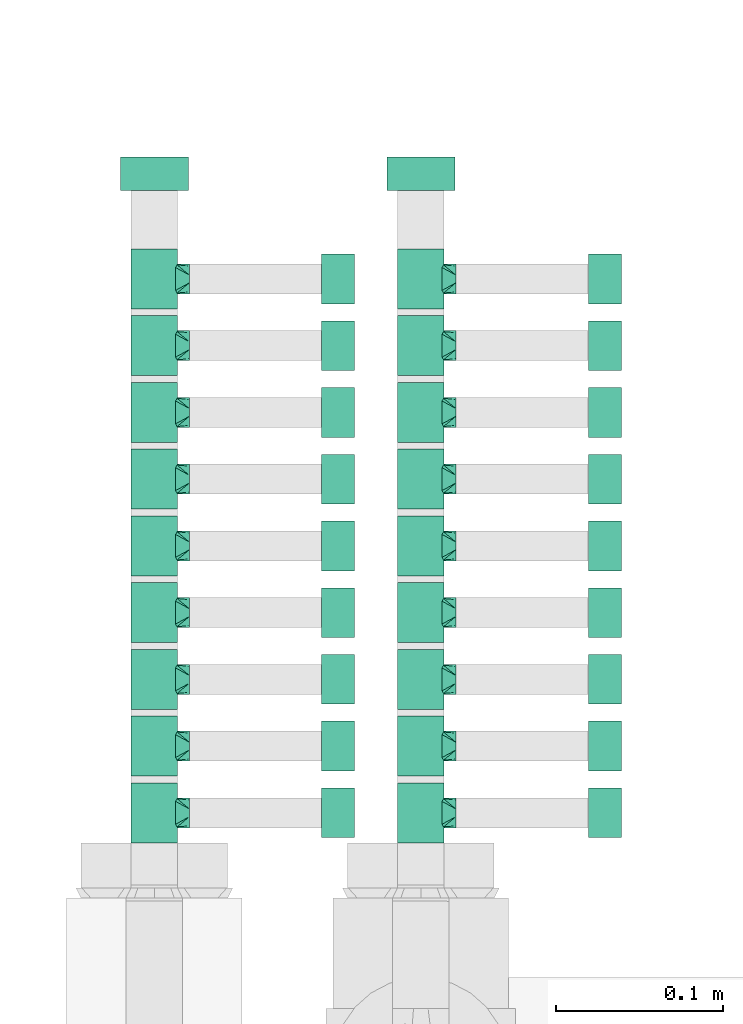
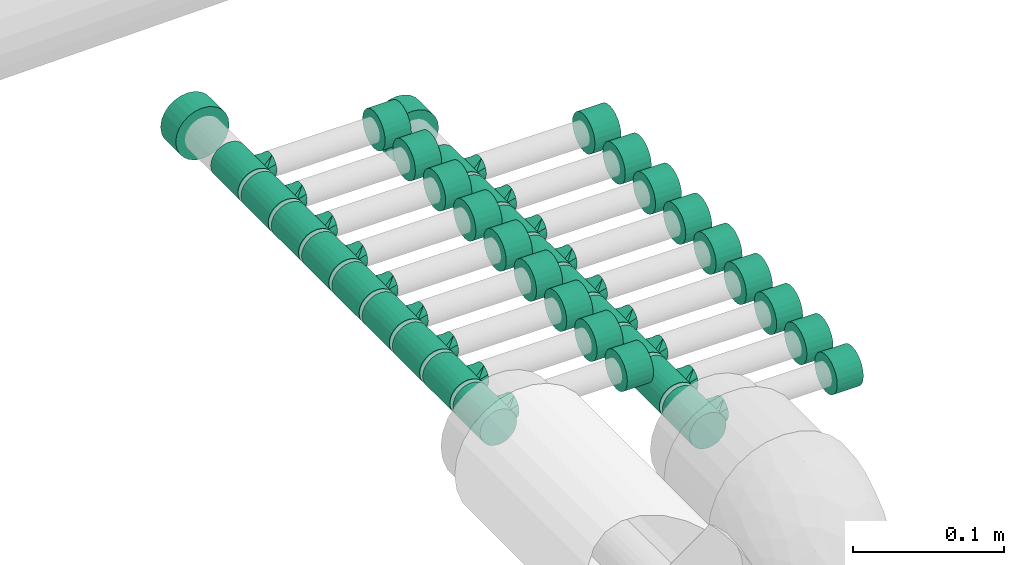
# One storey, part 42 of 83: 38 flow fittings.
"""IFC2X3 building model written with IfcOpenShell, lengths in millimetres."""

import ifcopenshell
import ifcopenshell.guid

model = None  # the IFC model being written
_history = None  # IfcOwnerHistory: only IFC2X3 demands one
_inside = {}  # id of a spatial element -> (the spatial element, [elements in it])
_under = {}  # id of a project, library or spatial element -> (it, [spatial elements below it])
_declared = {}  # id of a project -> (the project, [libraries it declares])
_typed = {}  # id of a type object -> (the type object, [elements of that type])
_made_of = {}  # id of a material, layer set ... -> (it, [elements and type objects made of it])


def new_model(schema):
    """Start an empty IFC model of exactly this schema.

    Asked for "IFC4X3", IfcOpenShell would pick the latest addendum, in which some entities
    have other attributes; the version numbers below select the first issue.
    IFC2X3 requires an IfcOwnerHistory on every rooted entity: one is made here for all.
    """
    global model, _history
    if schema == "IFC4X3":
        model = ifcopenshell.file(schema_version=(4, 3, 0, 0))
    else:
        model = ifcopenshell.file(schema=schema)
    _inside.clear()
    _under.clear()
    _declared.clear()
    _typed.clear()
    _made_of.clear()
    _history = None
    if model.schema == "IFC2X3":
        org = make("IfcOrganization", Name="unknown")
        user = make(
            "IfcPersonAndOrganization",
            ThePerson=make("IfcPerson", FamilyName="unknown"),
            TheOrganization=org,
        )
        app = make(
            "IfcApplication",
            ApplicationDeveloper=org,
            Version="unknown",
            ApplicationFullName="unknown",
            ApplicationIdentifier="unknown",
        )
        _history = make(
            "IfcOwnerHistory",
            OwningUser=user,
            OwningApplication=app,
            ChangeAction="ADDED",
            CreationDate=0,
        )
    return model


def make(cls, **values):
    """One entity of the class cls with the attributes given. An attribute that is None is left unset."""
    return model.create_entity(
        cls, **{name: value for name, value in values.items() if value is not None}
    )


def entity(cls, *values):
    """Any entity or typed value of the class cls, its attributes in the order of the schema. None: left unset."""
    e = model.create_entity(cls)
    for i, value in enumerate(values):
        if value is not None:
            e[i] = value
    return e


def rooted(cls, **values):
    """An entity with a GlobalId (a new one), such as an element, a storey or a relation."""
    return make(cls, GlobalId=ifcopenshell.guid.new(), OwnerHistory=_history, **values)


def si_unit(unit_type, name, prefix=None):
    """IfcSIUnit, for example si_unit("LENGTHUNIT", "METRE", prefix="MILLI")."""
    return make("IfcSIUnit", UnitType=unit_type, Prefix=prefix, Name=name)


def converted_unit(unit_type, name, factor, base, dimensions=None, offset=None):
    """IfcConversionBasedUnit, such as the inch: factor (a typed value) times the base unit."""
    return make(
        "IfcConversionBasedUnit"
        if offset is None
        else "IfcConversionBasedUnitWithOffset",
        ConversionOffset=offset,
        Dimensions=None
        if dimensions is None
        else entity("IfcDimensionalExponents", *dimensions),
        UnitType=unit_type,
        Name=name,
        ConversionFactor=make(
            "IfcMeasureWithUnit", ValueComponent=factor, UnitComponent=base
        ),
    )


def derived_unit(unit_type, elements):
    """IfcDerivedUnit: a product of units, each with its exponent."""
    return make(
        "IfcDerivedUnit",
        Elements=[
            make("IfcDerivedUnitElement", Unit=unit, Exponent=power)
            for unit, power in elements
        ],
        UnitType=unit_type,
    )


def assignment(units):
    """IfcUnitAssignment: the units of a project."""
    return None if units is None else make("IfcUnitAssignment", Units=units)


def point(xyz):
    """IfcCartesianPoint."""
    return None if xyz is None else make("IfcCartesianPoint", Coordinates=xyz)


def direction(xyz):
    """IfcDirection."""
    return None if xyz is None else make("IfcDirection", DirectionRatios=xyz)


def frame(location, z_axis=None, x_axis=None):
    """IfcAxis2Placement3D, a coordinate frame: its origin and axes. An axis left out is left unset."""
    return make(
        "IfcAxis2Placement3D",
        Location=point(location),
        Axis=direction(z_axis),
        RefDirection=direction(x_axis),
    )


def origin_with_axes():
    """The frame at (0, 0, 0) with the z axis (0, 0, 1) and the x axis (1, 0, 0) written out."""
    return frame((0.0, 0.0, 0.0), z_axis=(0.0, 0.0, 1.0), x_axis=(1.0, 0.0, 0.0))


def place(relative_to, where):
    """IfcLocalPlacement: puts the frame where relative to a parent placement (None: the world)."""
    return make(
        "IfcLocalPlacement", PlacementRelTo=relative_to, RelativePlacement=where
    )


def context(
    kind, dimensions, precision=None, world=None, true_north=None, identifier=None
):
    """IfcGeometricRepresentationContext, for example the 3D "Model" context."""
    return make(
        "IfcGeometricRepresentationContext",
        ContextIdentifier=identifier,
        ContextType=kind,
        CoordinateSpaceDimension=dimensions,
        Precision=precision,
        WorldCoordinateSystem=world,
        TrueNorth=true_north,
    )


def subcontext(parent, identifier, kind, view, scale=None):
    """IfcGeometricRepresentationSubContext, for example "Body" below "Model"."""
    return make(
        "IfcGeometricRepresentationSubContext",
        ContextIdentifier=identifier,
        ContextType=kind,
        ParentContext=parent,
        TargetScale=scale,
        TargetView=view,
    )


def project(units=None, contexts=None):
    """IfcProject with its units and contexts."""
    return rooted(
        "IfcProject",
        Name="project",
        RepresentationContexts=contexts,
        UnitsInContext=assignment(units),
    )


def spatial(cls, under=None, at=None, **own):
    """A site, building, storey or space (cls), placed at a placement, below another one or the project."""
    s = rooted(cls, ObjectPlacement=at, **own)
    if under is not None:
        _under.setdefault(under.id(), (under, []))[1].append(s)
    return s


def faces_of(points, faces, orient=None, outer=None):
    """IfcFace entities. A face is a list of loops; a loop is a list of indices into points, from 0.

    orient and outer hold one flag for each loop. By default every Orientation is true, the
    first loop of a face is its IfcFaceOuterBound and the others are IfcFaceBound.
    """
    made = []
    for i, loops in enumerate(faces):
        bounds = []
        for j, loop in enumerate(loops):
            is_outer = j == 0 if outer is None else outer[i][j]
            bounds.append(
                make(
                    "IfcFaceOuterBound" if is_outer else "IfcFaceBound",
                    Bound=make("IfcPolyLoop", Polygon=[points[k] for k in loop]),
                    Orientation=True if orient is None else orient[i][j],
                )
            )
        made.append(make("IfcFace", Bounds=bounds))
    return made


def open_shell(faces, orient=None, outer=None):
    """The faces of one IfcOpenShell. surface_model builds it on its shared points."""
    return ("IfcOpenShell", faces, orient, outer)


def surface_model(cls, points, shells):
    """IfcFaceBasedSurfaceModel or IfcShellBasedSurfaceModel (cls): surfaces that need not close."""
    shared = [point(p) for p in points]
    made = [make(c, CfsFaces=faces_of(shared, fs, o, b)) for c, fs, o, b in shells]
    if cls == "IfcFaceBasedSurfaceModel":
        return make(cls, FbsmFaces=made)
    return make(cls, SbsmBoundary=made)


def shape(context_of_items, identifier, shape_type, items):
    """IfcShapeRepresentation: the items that make up one representation, for example the "Body"."""
    return make(
        "IfcShapeRepresentation",
        ContextOfItems=context_of_items,
        RepresentationIdentifier=identifier,
        RepresentationType=shape_type,
        Items=items,
    )


def source(mapping_origin, context_of_items, identifier, shape_type, items):
    """IfcRepresentationMap: a shape defined once, which mapped items show again and again."""
    return make(
        "IfcRepresentationMap",
        MappingOrigin=mapping_origin,
        MappedRepresentation=shape(context_of_items, identifier, shape_type, items),
    )


def transform(
    local_origin,
    x_axis=None,
    y_axis=None,
    z_axis=None,
    scale=None,
    scale2=None,
    scale3=None,
    uniform=True,
):
    """IfcCartesianTransformationOperator3D, or its non-uniform kind. x_axis, y_axis, z_axis: its Axis1, 2, 3."""
    if uniform:
        return make(
            "IfcCartesianTransformationOperator3D",
            Axis1=direction(x_axis),
            Axis2=direction(y_axis),
            LocalOrigin=point(local_origin),
            Scale=scale,
            Axis3=direction(z_axis),
        )
    return make(
        "IfcCartesianTransformationOperator3DnonUniform",
        Axis1=direction(x_axis),
        Axis2=direction(y_axis),
        LocalOrigin=point(local_origin),
        Scale=scale,
        Axis3=direction(z_axis),
        Scale2=scale2,
        Scale3=scale3,
    )


def mapped(mapping_source, mapping_target):
    """IfcMappedItem: shows the shape of a source again, moved by a transform."""
    return make(
        "IfcMappedItem", MappingSource=mapping_source, MappingTarget=mapping_target
    )


def made_of(thing, what):
    """Note that an element or type object is made of a material, layer set ...; save() writes the relation."""
    if what is not None:
        _made_of.setdefault(what.id(), (what, []))[1].append(thing)
    return thing


def type_object(cls, material=None, **own):
    """A type object (cls), such as IfcWallType, which elements share."""
    return made_of(rooted(cls, **own), material)


def element(
    cls,
    number,
    at=None,
    inside=None,
    cuts=None,
    type_object=None,
    material=None,
    context=None,
    identifier="Body",
    shape_type=None,
    held_by="IfcProductDefinitionShape",
    body=None,
    shapes=None,
    **own,
):
    """One element of the class cls, such as IfcWall. Its Tag is "e" and its number.

    at: its placement. inside: the storey or other place that contains it. cuts: it is an
    opening in that element (IfcRelVoidsElement). A single representation is given by context,
    identifier, shape_type and body (its items); several are given by shapes. held_by: the class
    of the entity that holds the representations. save() writes the other relations.
    """
    e = rooted(cls, Tag="e%d" % number, ObjectPlacement=at, **own)
    if body is not None:
        shapes = [shape(context, identifier, shape_type, body)]
    if shapes is not None:
        e.Representation = make(held_by, Representations=shapes)
    if inside is not None:
        _inside.setdefault(inside.id(), (inside, []))[1].append(e)
    if cuts is not None:
        rooted(
            "IfcRelVoidsElement", RelatingBuildingElement=cuts, RelatedOpeningElement=e
        )
    if type_object is not None:
        _typed.setdefault(type_object.id(), (type_object, []))[1].append(e)
    return made_of(e, material)


def aggregate(whole, parts):
    """IfcRelAggregates: a whole, such as a stair, and the parts it consists of."""
    return rooted("IfcRelAggregates", RelatingObject=whole, RelatedObjects=parts)


def save(model, path):
    """Write the relations noted so far, then the file.

    IfcRelAggregates (storeys below a building ...), IfcRelContainedInSpatialStructure (elements
    in a storey), IfcRelDefinesByType, IfcRelAssociatesMaterial and IfcRelDeclares: one each for
    every whole, place, type object, material and project.
    """
    for whole, parts in _under.values():
        aggregate(whole, parts)
    for where, things in _inside.values():
        rooted(
            "IfcRelContainedInSpatialStructure",
            RelatedElements=things,
            RelatingStructure=where,
        )
    for kind, things in _typed.values():
        rooted("IfcRelDefinesByType", RelatedObjects=things, RelatingType=kind)
    for what, things in _made_of.values():
        rooted("IfcRelAssociatesMaterial", RelatedObjects=things, RelatingMaterial=what)
    for by, libraries in _declared.values():
        rooted("IfcRelDeclares", RelatingContext=by, RelatedDefinitions=libraries)
    model.write(path)


model = new_model("IFC2X3")

# Units and contexts
model_context = context("Model", 3, precision=0.01, world=frame((0.0, 4.29681676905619e-09, 0.0)), true_north=direction((4.01073788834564e-13, 1.0)))
plan_context = context("Plan", 3, precision=0.01, world=frame((0.0, 4.29681676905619e-09, 0.0)), true_north=direction((4.01073788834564e-13, 1.0)))
body_context = subcontext(model_context, "Body", "Model", "MODEL_VIEW")
ifc_project = project(units=[converted_unit("PLANEANGLEUNIT", "DEGREE", entity("IfcPositiveLengthMeasure", 0.0174532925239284), si_unit("PLANEANGLEUNIT", "RADIAN"), dimensions=[0, 0, 0, 0, 0, 0, 0]), si_unit("AREAUNIT", "SQUARE_METRE"), si_unit("LENGTHUNIT", "METRE", prefix="MILLI"), si_unit("MASSUNIT", "GRAM", prefix="KILO"), si_unit("POWERUNIT", "WATT"), si_unit("PRESSUREUNIT", "PASCAL"), si_unit("FORCEUNIT", "NEWTON", prefix="KILO"), si_unit("ELECTRICVOLTAGEUNIT", "VOLT"), si_unit("ELECTRICCURRENTUNIT", "AMPERE"), si_unit("THERMODYNAMICTEMPERATUREUNIT", "DEGREE_CELSIUS"), si_unit("TIMEUNIT", "SECOND"), si_unit("VOLUMEUNIT", "CUBIC_METRE"), derived_unit("LINEARVELOCITYUNIT", [(si_unit("LENGTHUNIT", "METRE"), 1), (si_unit("TIMEUNIT", "SECOND"), -1)]), derived_unit("VOLUMETRICFLOWRATEUNIT", [(si_unit("VOLUMEUNIT", "CUBIC_METRE"), 1), (si_unit("TIMEUNIT", "SECOND"), -1)]), derived_unit("THERMALTRANSMITTANCEUNIT", [(si_unit("POWERUNIT", "WATT"), 1), (si_unit("THERMODYNAMICTEMPERATUREUNIT", "KELVIN"), -1), (si_unit("AREAUNIT", "SQUARE_METRE"), -1)]), derived_unit("SOUNDPRESSUREUNIT", [(si_unit("PRESSUREUNIT", "PASCAL"), 1)])], contexts=[model_context, plan_context])

# Site, building, storey
site_placement = place(None, frame((0.0, -4.29681676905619e-09, 0.0), z_axis=(0.0, 0.0, 1.0), x_axis=(1.0, 0.0, 0.0)))
site = spatial("IfcSite", under=ifc_project, at=site_placement, Name="ENGM", CompositionType="ELEMENT")
building_placement = place(site_placement, frame((0.0, 4.29681676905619e-09, 0.0), z_axis=(0.0, 0.0, 1.0), x_axis=(1.0, 0.0, 0.0)))
building = spatial("IfcBuilding", under=site, at=building_placement, Name="TI", CompositionType="ELEMENT")
storey_placement = place(building_placement, frame((0.0, 0.0, 204000.0), z_axis=(0.0, 0.0, 1.0), x_axis=(1.0, 0.0, 0.0)))
storey = spatial("IfcBuildingStorey", under=building, at=storey_placement, Name="Nivå D", CompositionType="ELEMENT", Elevation=204000.0)

# Flow fittings
pipe_fitting_type_1 = type_object("IfcPipeFittingType", Name="magi_pipe_pex_tee_centric_90_001", PredefinedType="JUNCTION")
shared_shape_1 = source(origin_with_axes(), body_context, "Body", "SurfaceModel", [
    surface_model("IfcShellBasedSurfaceModel", [(-18.0, -9.89949, -9.89949), (-18.0, 0.0, -14.0), (-18.0, -3.62347, -13.52296), (-18.0, -7.0, -12.12436), (-18.0, -12.12436, -7.0), (-18.0, -13.52296, -3.62347), (-18.0, 12.12436, -7.0), (-18.0, 3.62347, -13.52296), (-18.0, 9.89949, -9.89949), (-18.0, 7.0, -12.12436), (-18.0, 14.0, 0.0), (-18.0, 13.52296, -3.62347), (-18.0, -7.0, 12.12436), (-18.0, -14.0, 0.0), (-18.0, -13.52296, 3.62347), (-18.0, -12.12436, 7.0), (-18.0, -3.62347, 13.52296), (-18.0, -9.89949, 9.89949), (-18.0, 0.0, 14.0), (-18.0, 12.12436, 7.0), (-18.0, 13.52296, 3.62347), (-18.0, 9.89949, 9.89949), (-18.0, 3.62347, 13.52296), (-18.0, 7.0, 12.12436), (18.0, -3.62347, -13.52296), (18.0, 0.0, -14.0), (18.0, -9.89949, -9.89949), (18.0, -7.0, -12.12436), (18.0, -13.52296, -3.62347), (18.0, -12.12436, -7.0), (18.0, 12.12436, -7.0), (18.0, 7.0, -12.12436), (18.0, 9.89949, -9.89949), (18.0, 3.62347, -13.52296), (18.0, 13.52296, -3.62347), (18.0, 14.0, 0.0), (18.0, -14.0, 0.0), (18.0, -12.12436, 7.0), (18.0, -13.52296, 3.62347), (18.0, -7.0, 12.12436), (18.0, -3.62347, 13.52296), (18.0, -9.89949, 9.89949), (18.0, 0.0, 14.0), (18.0, 13.52296, 3.62347), (18.0, 12.12436, 7.0), (18.0, 9.89949, 9.89949), (18.0, 7.0, 12.12436), (18.0, 3.62347, 13.52296), (8.43076, 13.64103, 3.14996), (9.0, 14.0, 0.0), (18.0, 12.82366, 5.31173), (4.53823, 11.64455, 7.77203), (6.86452, 12.7327, 5.82051), (1.60606, 10.84341, 8.85554), (-8.43107, 13.64122, 3.14913), (-9.0, 14.0, 0.0), (-18.0, 12.82366, 5.31173), (-6.86651, 12.73377, 5.81816), (-1.60877, 10.84381, 8.85505), (-4.53904, 11.64487, 7.77156), (-6.86651, 12.73377, -5.81816), (-18.0, 12.82366, -5.31173), (-8.43107, 13.64122, -3.14913), (18.0, 12.82366, -5.31173), (6.86452, 12.7327, -5.82051), (4.53823, 11.64455, -7.77203), (1.60606, 10.84341, -8.85554), (8.43076, 13.64103, -3.14996), (-4.53904, 11.64487, -7.77156), (-1.60877, 10.84381, -8.85505), (4.5, 21.0, -7.79423), (2.32937, 21.0, -8.69333), (0.0, 21.0, -9.0), (8.69333, 21.0, -2.32937), (7.79423, 21.0, -4.5), (6.36396, 21.0, -6.36396), (-9.0, 21.0, 0.0), (-4.5, 21.0, -7.79423), (-6.36396, 21.0, -6.36396), (-2.32937, 21.0, -8.69333), (-8.69333, 21.0, -2.32937), (-7.79423, 21.0, -4.5), (9.0, 21.0, 0.0), (-4.5, 21.0, 7.79423), (8.69333, 21.0, 2.32937), (0.0, 21.0, 9.0), (7.79423, 21.0, 4.5), (2.32937, 21.0, 8.69333), (4.5, 21.0, 7.79423), (6.36396, 21.0, 6.36396), (-7.79423, 21.0, 4.5), (-6.36396, 21.0, 6.36396), (-8.69333, 21.0, 2.32937), (-2.32937, 21.0, 8.69333)], [open_shell([[[0, 1, 2]], [[0, 2, 3]], [[4, 5, 1]], [[4, 1, 0]], [[1, 5, 6]], [[7, 8, 9]], [[8, 7, 6]], [[6, 10, 11]], [[6, 7, 1]], [[6, 12, 10]], [[6, 5, 13]], [[13, 14, 15]], [[15, 12, 6]], [[16, 10, 12]], [[12, 15, 17]], [[10, 16, 18]], [[10, 19, 20]], [[10, 21, 19]], [[21, 22, 23]], [[22, 21, 18]], [[18, 21, 10]], [[15, 6, 13]], [[24, 25, 26]], [[27, 24, 26]], [[25, 28, 29]], [[26, 25, 29]], [[30, 28, 25]], [[31, 32, 33]], [[30, 33, 32]], [[34, 35, 30]], [[25, 33, 30]], [[30, 35, 28]], [[35, 36, 28]], [[37, 38, 36]], [[39, 37, 36]], [[39, 35, 40]], [[41, 37, 39]], [[35, 42, 40]], [[43, 44, 35]], [[44, 45, 35]], [[46, 47, 45]], [[42, 45, 47]], [[35, 45, 42]], [[35, 39, 36]], [[48, 43, 35]], [[35, 49, 48]], [[43, 48, 50]], [[51, 45, 44]], [[44, 52, 51]], [[45, 51, 53]], [[53, 21, 45]], [[50, 52, 44]], [[52, 50, 48]], [[10, 54, 55]], [[54, 10, 20]], [[54, 56, 57]], [[21, 58, 59]], [[57, 19, 59]], [[21, 59, 19]], [[54, 20, 56]], [[21, 53, 58]], [[56, 19, 57]], [[21, 23, 45]], [[42, 47, 18]], [[47, 46, 22]], [[40, 42, 16]], [[14, 38, 37]], [[41, 39, 17]], [[37, 41, 15]], [[12, 39, 40]], [[36, 38, 13]], [[22, 46, 23]], [[18, 47, 22]], [[42, 18, 16]], [[16, 12, 40]], [[17, 39, 12]], [[41, 17, 15]], [[37, 15, 14]], [[14, 13, 38]], [[45, 23, 46]], [[28, 36, 13]], [[5, 29, 28]], [[29, 4, 26]], [[25, 7, 33]], [[25, 24, 1]], [[60, 61, 62]], [[2, 24, 27]], [[9, 31, 33]], [[3, 27, 26]], [[26, 4, 0]], [[29, 5, 4]], [[28, 13, 5]], [[63, 30, 64]], [[2, 27, 3]], [[24, 2, 1]], [[1, 7, 25]], [[7, 9, 33]], [[3, 26, 0]], [[9, 8, 31]], [[65, 30, 32]], [[32, 66, 65]], [[65, 64, 30]], [[8, 66, 32]], [[67, 35, 34]], [[67, 63, 64]], [[35, 67, 49]], [[34, 63, 67]], [[8, 68, 69]], [[68, 8, 6]], [[6, 60, 68]], [[66, 8, 69]], [[61, 11, 62]], [[11, 10, 62]], [[55, 62, 10]], [[6, 61, 60]], [[31, 8, 32]], [[70, 71, 72]], [[73, 70, 72]], [[73, 74, 75]], [[70, 73, 75]], [[76, 73, 72]], [[77, 78, 79]], [[78, 72, 79]], [[80, 76, 81]], [[78, 81, 76]], [[78, 76, 72]], [[76, 82, 73]], [[82, 83, 84]], [[84, 85, 86]], [[86, 87, 88]], [[89, 86, 88]], [[86, 85, 87]], [[90, 91, 92]], [[83, 92, 91]], [[93, 85, 83]], [[83, 76, 92]], [[83, 85, 84]], [[82, 76, 83]], [[92, 76, 55]], [[91, 90, 54]], [[55, 90, 92]], [[54, 83, 91]], [[54, 90, 55]], [[93, 54, 57]], [[51, 59, 58]], [[59, 52, 57]], [[57, 85, 93]], [[54, 93, 83]], [[85, 52, 87]], [[87, 48, 88]], [[86, 89, 48]], [[48, 89, 88]], [[84, 86, 49]], [[58, 53, 51]], [[59, 51, 52]], [[48, 49, 86]], [[87, 52, 48]], [[82, 84, 49]], [[52, 85, 57]], [[73, 82, 49]], [[75, 74, 67]], [[49, 74, 73]], [[67, 70, 75]], [[67, 74, 49]], [[71, 67, 64]], [[69, 65, 66]], [[65, 68, 64]], [[64, 72, 71]], [[67, 71, 70]], [[79, 72, 60]], [[79, 62, 77]], [[81, 78, 62]], [[62, 78, 77]], [[80, 81, 55]], [[65, 69, 68]], [[64, 68, 60]], [[62, 55, 81]], [[79, 60, 62]], [[76, 80, 55]], [[60, 72, 64]]])]),
])
for number, where, z_axis, x_axis, name in (
    (1, (603050.14337, 693512.44874, 6342.22842999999), (0.0, 0.0, 1.0), (0.0, -1.0, 0.0), "magi_pipe_pex_tee_centric_90_001"),
    (2, (603050.14337, 693552.44874, 6342.22842999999), (0.0, 0.0, 1.0), (0.0, -1.0, 0.0), "magi_pipe_pex_tee_centric_90_001"),
    (3, (603050.14337, 693592.44874, 6342.22842999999), (0.0, 0.0, 1.0), (0.0, -1.0, 0.0), "magi_pipe_pex_tee_centric_90_001"),
    (4, (603050.14337, 693632.44874, 6342.22842999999), (0.0, 0.0, 1.0), (0.0, -1.0, 0.0), "magi_pipe_pex_tee_centric_90_001"),
    (5, (603050.14337, 693672.44874, 6342.22842999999), (0.0, 0.0, 1.0), (0.0, -1.0, 0.0), "magi_pipe_pex_tee_centric_90_001"),
    (6, (603050.14337, 693712.44874, 6342.22842999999), (0.0, 0.0, 1.0), (0.0, -1.0, 0.0), "magi_pipe_pex_tee_centric_90_001"),
    (7, (603050.14337, 693752.44874, 6342.22842999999), (0.0, 0.0, 1.0), (0.0, -1.0, 0.0), "magi_pipe_pex_tee_centric_90_001"),
    (8, (603050.14337, 693792.44874, 6342.22842999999), (0.0, 0.0, 1.0), (0.0, -1.0, 0.0), "magi_pipe_pex_tee_centric_90_001"),
    (9, (603050.14337, 693832.44874, 6342.22842999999), (0.0, 0.0, 1.0), (0.0, -1.0, 0.0), "magi_pipe_pex_tee_centric_90_001"),
    (10, (603209.87398, 693512.44819, 6283.60000000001), (0.0, 0.0, 1.0), (0.0, -1.0, 0.0), "magi_pipe_pex_tee_centric_90_001"),
    (11, (603209.87398, 693552.44819, 6283.60000000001), (0.0, 0.0, 1.0), (0.0, -1.0, 0.0), "magi_pipe_pex_tee_centric_90_001"),
    (12, (603209.87398, 693592.44819, 6283.60000000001), (0.0, 0.0, 1.0), (0.0, -1.0, 0.0), "magi_pipe_pex_tee_centric_90_001"),
    (13, (603209.87398, 693632.44819, 6283.60000000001), (0.0, 0.0, 1.0), (0.0, -1.0, 0.0), "magi_pipe_pex_tee_centric_90_001"),
    (14, (603209.87398, 693672.44819, 6283.60000000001), (0.0, 0.0, 1.0), (0.0, -1.0, 0.0), "magi_pipe_pex_tee_centric_90_001"),
    (15, (603209.87398, 693712.44819, 6283.60000000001), (0.0, 0.0, 1.0), (0.0, -1.0, 0.0), "magi_pipe_pex_tee_centric_90_001"),
    (16, (603209.87398, 693752.44819, 6283.60000000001), (0.0, 0.0, 1.0), (0.0, -1.0, 0.0), "magi_pipe_pex_tee_centric_90_001"),
    (17, (603209.87398, 693792.44819, 6283.60000000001), (0.0, 0.0, 1.0), (0.0, -1.0, 0.0), "magi_pipe_pex_tee_centric_90_001"),
    (18, (603209.87398, 693832.44819, 6283.60000000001), (0.0, 0.0, 1.0), (0.0, -1.0, 0.0), "magi_pipe_pex_tee_centric_90_001"),
):
    element("IfcFlowFitting", number, at=place(storey_placement, frame(where, z_axis=z_axis, x_axis=x_axis)), inside=storey, type_object=pipe_fitting_type_1, Name=name, context=body_context, shape_type="MappedRepresentation", body=[
        mapped(shared_shape_1, transform((0.0, 0.0, 0.0), scale=1.0)),
    ])
pipe_fitting_type_2 = type_object("IfcPipeFittingType", Name="magi_sewer_endcap_001", PredefinedType="OBSTRUCTION")
shared_shape_2 = source(origin_with_axes(), body_context, "Body", "SurfaceModel", [
    surface_model("IfcShellBasedSurfaceModel", [(20.0, 14.39229, 3.8564), (20.0, 14.39229, -3.8564), (20.0, 14.9, 0.0), (0.0, -14.39229, 3.8564), (0.0, -14.39229, -3.8564), (0.0, -14.9, 0.0), (20.0, -14.39229, -3.8564), (20.0, -14.9, 0.0), (0.0, 14.9, 0.0), (0.0, 14.39229, 3.8564), (20.0, 12.90378, 7.45), (20.0, 10.53589, 10.53589), (0.0, 12.90378, 7.45), (0.0, -12.90378, 7.45), (20.0, -12.90378, 7.45), (20.0, -10.53589, 10.53589), (20.0, -14.39229, 3.8564), (20.0, -7.45, -12.90378), (20.0, -3.8564, -14.39229), (20.0, 0.0, -14.9), (20.0, 7.45, -12.90378), (20.0, -10.53589, -10.53589), (20.0, -12.90378, -7.45), (20.0, 3.8564, -14.39229), (20.0, 12.90378, -7.45), (20.0, 10.53589, -10.53589), (20.0, -7.45, 12.90378), (20.0, 0.0, 14.9), (20.0, -3.8564, 14.39229), (20.0, 3.8564, 14.39229), (20.0, 7.45, 12.90378), (0.0, -7.45, 12.90378), (0.0, -3.8564, 14.39229), (0.0, 0.0, 14.9), (0.0, -10.53589, 10.53589), (0.0, 3.8564, 14.39229), (0.0, 7.45, 12.90378), (0.0, 10.53589, 10.53589), (0.0, 14.39229, -3.8564), (0.0, -7.45, -12.90378), (0.0, -10.53589, -10.53589), (0.0, -12.90378, -7.45), (0.0, -3.8564, -14.39229), (0.0, 7.45, -12.90378), (0.0, 12.90378, -7.45), (0.0, 10.53589, -10.53589), (0.0, 3.8564, -14.39229), (0.0, 0.0, -14.9)], [open_shell([[[0, 1, 2]], [[3, 4, 5]], [[6, 7, 5]], [[8, 2, 1]], [[9, 10, 0]], [[0, 2, 8]], [[11, 10, 12]], [[13, 14, 15]], [[16, 14, 3]], [[5, 7, 16]], [[17, 18, 19]], [[17, 20, 21]], [[0, 6, 21]], [[22, 21, 6]], [[21, 20, 0]], [[23, 20, 19]], [[20, 17, 19]], [[24, 1, 25]], [[20, 25, 1]], [[1, 0, 20]], [[6, 10, 7]], [[15, 14, 16]], [[26, 15, 16]], [[27, 28, 26]], [[16, 27, 26]], [[29, 27, 16]], [[6, 0, 10]], [[30, 29, 11]], [[10, 11, 29]], [[16, 10, 29]], [[10, 16, 7]], [[31, 32, 33]], [[34, 31, 33]], [[3, 13, 34]], [[33, 3, 34]], [[35, 3, 33]], [[36, 37, 35]], [[12, 35, 37]], [[12, 9, 35]], [[9, 3, 35]], [[8, 38, 9]], [[39, 3, 9]], [[3, 40, 4]], [[41, 4, 40]], [[9, 42, 39]], [[39, 40, 3]], [[9, 43, 42]], [[44, 45, 38]], [[43, 38, 45]], [[46, 47, 43]], [[43, 9, 38]], [[43, 47, 42]], [[8, 1, 38]], [[38, 24, 44]], [[43, 45, 20]], [[25, 45, 44]], [[46, 43, 23]], [[1, 24, 38]], [[43, 20, 23]], [[20, 45, 25]], [[44, 24, 25]], [[46, 23, 19]], [[19, 47, 46]], [[42, 47, 18]], [[39, 42, 17]], [[4, 41, 22]], [[5, 4, 6]], [[17, 21, 39]], [[42, 18, 17]], [[21, 22, 40]], [[22, 41, 40]], [[6, 4, 22]], [[39, 21, 40]], [[19, 18, 47]], [[5, 16, 3]], [[3, 14, 13]], [[31, 34, 26]], [[15, 34, 13]], [[32, 31, 28]], [[31, 26, 28]], [[26, 34, 15]], [[32, 28, 27]], [[27, 33, 32]], [[37, 36, 30]], [[9, 12, 10]], [[11, 12, 37]], [[8, 9, 0]], [[30, 35, 29]], [[35, 27, 29]], [[30, 36, 35]], [[30, 11, 37]], [[33, 27, 35]]])]),
])
for number, where, z_axis, x_axis, name in (
    (19, (603150.2536, 693512.44877, 6342.22808999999), (0.0, 0.0, -1.0), (1.0, 0.0, 0.0), "magi_sewer_endcap_001"),
    (20, (603150.2536, 693552.44877, 6342.22808999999), (0.0, 0.0, -1.0), (1.0, 0.0, 0.0), "magi_sewer_endcap_001"),
    (21, (603150.2536, 693592.44877, 6342.22808999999), (0.0, 0.0, -1.0), (1.0, 0.0, 0.0), "magi_sewer_endcap_001"),
    (22, (603150.2536, 693632.44877, 6342.22808999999), (0.0, 0.0, -1.0), (1.0, 0.0, 0.0), "magi_sewer_endcap_001"),
    (23, (603150.2536, 693672.44877, 6342.22808999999), (0.0, 0.0, -1.0), (1.0, 0.0, 0.0), "magi_sewer_endcap_001"),
    (24, (603150.2536, 693712.44877, 6342.22808999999), (0.0, 0.0, -1.0), (1.0, 0.0, 0.0), "magi_sewer_endcap_001"),
    (25, (603150.2536, 693752.44877, 6342.22808999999), (0.0, 0.0, -1.0), (1.0, 0.0, 0.0), "magi_sewer_endcap_001"),
    (26, (603150.2536, 693792.44877, 6342.22808999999), (0.0, 0.0, -1.0), (1.0, 0.0, 0.0), "magi_sewer_endcap_001"),
    (27, (603150.2536, 693832.44877, 6342.22808999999), (0.0, 0.0, -1.0), (1.0, 0.0, 0.0), "magi_sewer_endcap_001"),
    (28, (603310.30343, 693512.44819, 6283.60000000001), (0.0, 0.0, -1.0), (1.0, 0.0, 0.0), "magi_sewer_endcap_001"),
    (29, (603310.30343, 693552.44819, 6283.60000000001), (0.0, 0.0, -1.0), (1.0, 0.0, 0.0), "magi_sewer_endcap_001"),
    (30, (603310.30343, 693592.44819, 6283.60000000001), (0.0, 0.0, -1.0), (1.0, 0.0, 0.0), "magi_sewer_endcap_001"),
    (31, (603310.30343, 693632.44819, 6283.60000000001), (0.0, 0.0, -1.0), (1.0, 0.0, 0.0), "magi_sewer_endcap_001"),
    (32, (603310.30343, 693672.44819, 6283.60000000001), (0.0, 0.0, -1.0), (1.0, 0.0, 0.0), "magi_sewer_endcap_001"),
    (33, (603310.30343, 693712.44819, 6283.60000000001), (0.0, 0.0, -1.0), (1.0, 0.0, 0.0), "magi_sewer_endcap_001"),
    (34, (603310.30343, 693752.44819, 6283.60000000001), (0.0, 0.0, -1.0), (1.0, 0.0, 0.0), "magi_sewer_endcap_001"),
    (35, (603310.30343, 693792.44819, 6283.60000000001), (0.0, 0.0, -1.0), (1.0, 0.0, 0.0), "magi_sewer_endcap_001"),
    (36, (603310.30343, 693832.44819, 6283.60000000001), (0.0, 0.0, -1.0), (1.0, 0.0, 0.0), "magi_sewer_endcap_001"),
):
    element("IfcFlowFitting", number, at=place(storey_placement, frame(where, z_axis=z_axis, x_axis=x_axis)), inside=storey, type_object=pipe_fitting_type_2, Name=name, context=body_context, shape_type="MappedRepresentation", body=[
        mapped(shared_shape_2, transform((0.0, 0.0, 0.0), scale=1.0)),
    ])
shared_shape_3 = source(origin_with_axes(), body_context, "Body", "SurfaceModel", [
    surface_model("IfcShellBasedSurfaceModel", [(20.0, -5.27991, 19.70489), (20.0, -14.42498, 14.42498), (20.0, -19.70489, 5.27991), (0.0, -5.27991, 19.70489), (0.0, 0.0, 20.4), (0.0, -14.42498, 14.42498), (0.0, -10.2, -17.66692), (0.0, 0.0, -20.4), (0.0, -5.27991, -19.70489), (0.0, 5.27991, -19.70489), (0.0, 10.2, -17.66692), (20.0, -17.66692, 10.2), (0.0, -19.70489, 5.27991), (0.0, -20.4, 0.0), (20.0, -20.4, 0.0), (0.0, -17.66692, 10.2), (20.0, 14.42498, 14.42498), (20.0, 17.66692, 10.2), (0.0, 17.66692, 10.2), (0.0, 19.70489, 5.27991), (20.0, 19.70489, 5.27991), (20.0, 20.4, 0.0), (0.0, 20.4, 0.0), (20.0, 17.66692, -10.2), (20.0, 5.27991, -19.70489), (20.0, 10.2, -17.66692), (20.0, 14.42498, -14.42498), (20.0, 19.70489, -5.27991), (20.0, -10.2, -17.66692), (20.0, 0.0, -20.4), (20.0, -5.27991, -19.70489), (20.0, -14.42498, -14.42498), (20.0, -19.70489, -5.27991), (20.0, -17.66692, -10.2), (20.0, 5.27991, 19.70489), (20.0, 10.2, 17.66692), (20.0, 0.0, 20.4), (20.0, -10.2, 17.66692), (0.0, 5.27991, 19.70489), (0.0, 14.42498, 14.42498), (0.0, 10.2, 17.66692), (0.0, -10.2, 17.66692), (0.0, 19.70489, -5.27991), (0.0, -14.42498, -14.42498), (0.0, 17.66692, -10.2), (0.0, 14.42498, -14.42498), (0.0, -19.70489, -5.27991), (0.0, -17.66692, -10.2)], [open_shell([[[0, 1, 2]], [[3, 4, 5]], [[6, 7, 8]], [[9, 7, 10]], [[10, 7, 6]], [[2, 11, 12]], [[13, 14, 2]], [[15, 11, 1]], [[16, 17, 18]], [[19, 17, 20]], [[20, 21, 22]], [[23, 24, 25]], [[23, 25, 26]], [[27, 21, 24]], [[27, 24, 23]], [[24, 21, 28]], [[29, 28, 30]], [[29, 24, 28]], [[31, 32, 33]], [[31, 28, 21]], [[32, 31, 21]], [[21, 20, 32]], [[20, 17, 16]], [[20, 16, 34]], [[34, 14, 32]], [[34, 16, 35]], [[14, 34, 36]], [[2, 1, 11]], [[0, 2, 14]], [[1, 0, 37]], [[14, 36, 0]], [[34, 32, 20]], [[38, 5, 4]], [[39, 38, 40]], [[39, 18, 19]], [[12, 38, 39]], [[12, 39, 19]], [[3, 5, 41]], [[5, 12, 15]], [[38, 12, 5]], [[19, 13, 12]], [[19, 22, 13]], [[42, 43, 22]], [[10, 42, 44]], [[42, 10, 6]], [[10, 44, 45]], [[46, 43, 47]], [[46, 22, 43]], [[43, 42, 6]], [[22, 46, 13]], [[46, 32, 13]], [[47, 33, 46]], [[28, 43, 6]], [[47, 43, 31]], [[30, 6, 8]], [[46, 33, 32]], [[32, 14, 13]], [[30, 28, 6]], [[31, 43, 28]], [[31, 33, 47]], [[29, 30, 8]], [[8, 7, 29]], [[9, 24, 7]], [[10, 25, 9]], [[23, 45, 44]], [[10, 45, 26]], [[27, 44, 42]], [[10, 26, 25]], [[25, 24, 9]], [[21, 27, 42]], [[23, 44, 27]], [[23, 26, 45]], [[22, 21, 42]], [[7, 24, 29]], [[19, 20, 22]], [[18, 17, 19]], [[35, 39, 40]], [[18, 39, 16]], [[34, 40, 38]], [[34, 35, 40]], [[16, 39, 35]], [[36, 34, 38]], [[38, 4, 36]], [[4, 3, 0]], [[11, 15, 12]], [[15, 1, 5]], [[2, 12, 13]], [[3, 37, 0]], [[37, 3, 41]], [[37, 41, 1]], [[41, 5, 1]], [[4, 0, 36]]])]),
])
for number, where, z_axis, x_axis, name in (
    (37, (603209.87398, 693885.44819, 6283.60000000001), (0.0, 0.0, 1.0), (0.0, 1.0, 0.0), "magi_sewer_endcap_001"),
    (38, (603050.14337, 693885.44819, 6342.20000000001), (0.0, 0.000811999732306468, 0.999999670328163), (0.0, 0.999999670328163, -0.000811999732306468), "magi_sewer_endcap_001"),
):
    element("IfcFlowFitting", number, at=place(storey_placement, frame(where, z_axis=z_axis, x_axis=x_axis)), inside=storey, type_object=pipe_fitting_type_2, Name=name, context=body_context, shape_type="MappedRepresentation", body=[
        mapped(shared_shape_3, transform((0.0, 0.0, 0.0), scale=1.0)),
    ])

save(model, "model.ifc")
